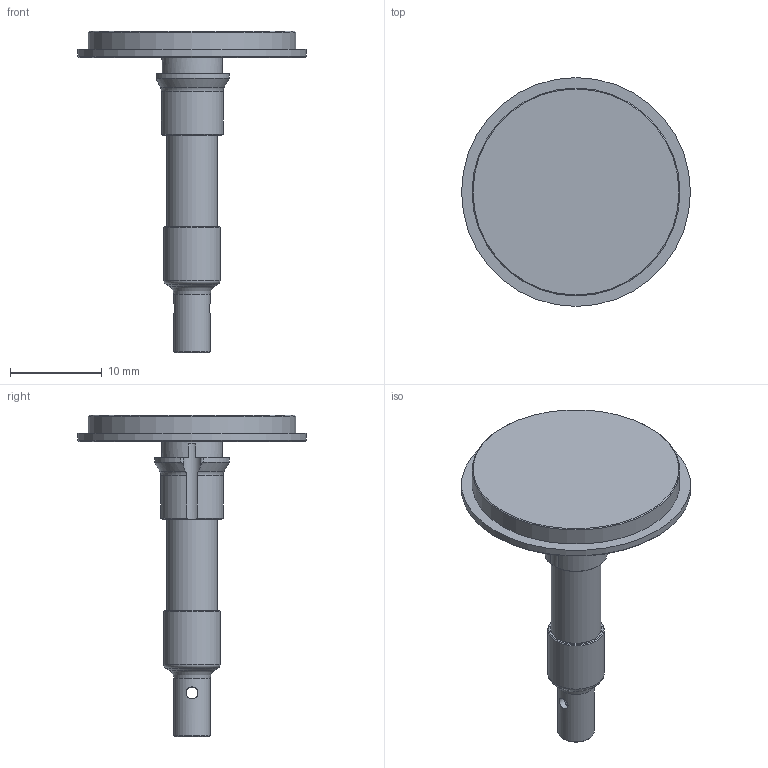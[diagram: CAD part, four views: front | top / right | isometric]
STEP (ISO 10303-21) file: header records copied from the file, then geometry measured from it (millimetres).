
FILE_DESCRIPTION(/* description */ (''),/* implementation_level */ '2;1');
FILE_NAME(/* name */ 'LA-2237-0790#-B.stp',/* time_stamp */ '2012-09-07T08:48:11+01:00',/* author */ (''),/* organization */ (''),/* preprocessor_version */ 'ST-DEVELOPER v11',/* originating_system */ 'SIEMENS PLM Software NX 7.5',/* authorisation */ '');
FILE_SCHEMA (('AUTOMOTIVE_DESIGN { 1 0 10303 214 1 1 1 1 }'));
Length unit declared in the file: millimetre
Products named in the file (1): rt13371Ayuu9
Bounding box: 25 x 25 x 35.15 mm (x, y, z)
Volume: 1903.2 mm3; surface area: 1842 mm2
Topology: 1 solids, 1 shells, 47 faces, 174 edges, 143 vertices
Faces by surface type: plane 18, cylinder 14, cone 11, torus 4
Full cylindrical faces by diameter (mm): 1.31 x2, 2.6 x1, 4 x1, 5.475 x1, 6.168 x1, 6.6 x1, 22.7 x1, 25 x1
Entity records: 2287 total; most frequent: CARTESIAN_POINT 748, ORIENTED_EDGE 292, DIRECTION 226, EDGE_CURVE 146, VERTEX_POINT 137, AXIS2_PLACEMENT_3D 87, EDGE_LOOP 86, FACE_BOUND 69
